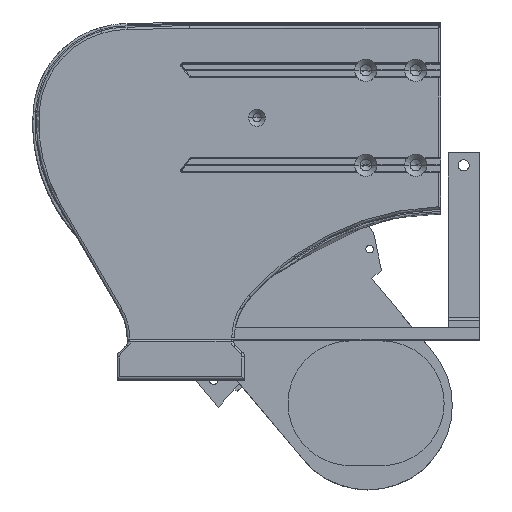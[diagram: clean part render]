
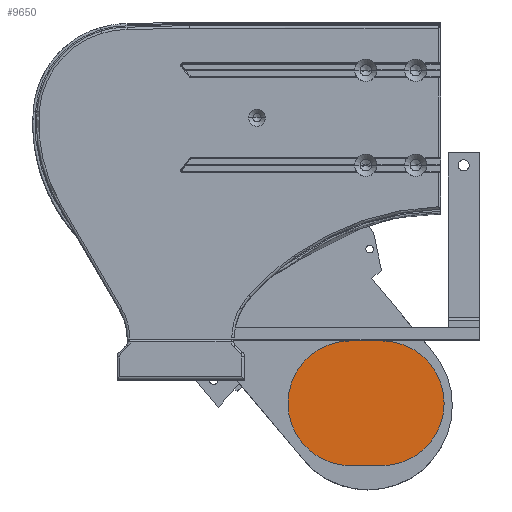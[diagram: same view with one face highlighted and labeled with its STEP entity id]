
A CAD part, top view. The second image highlights one B-rep face of the part: STEP entity #9650.
In plain terms, the highlighted planar face has unit normal (0, 0, 1).
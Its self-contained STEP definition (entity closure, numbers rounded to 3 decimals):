
#1432 = PLANE ( 'NONE',  #16871 ) ;
#3459 = ORIENTED_EDGE ( 'NONE', *, *, #28242, .T. ) ;
#5045 = ORIENTED_EDGE ( 'NONE', *, *, #16621, .T. ) ;
#5463 = CARTESIAN_POINT ( 'NONE',  ( 192.835, -229.814, -242. ) ) ;
#5581 = CARTESIAN_POINT ( 'NONE',  ( -50.176, -42.102, -242. ) ) ;
#5645 = VERTEX_POINT ( 'NONE', #5581 ) ;
#6717 = ORIENTED_EDGE ( 'NONE', *, *, #10476, .T. ) ;
#7045 = FACE_OUTER_BOUND ( 'NONE', #28588, .T. ) ;
#7589 = CARTESIAN_POINT ( 'NONE',  ( -50.176, -42.102, -242. ) ) ;
#8503 = DIRECTION ( 'NONE',  ( 0., 0., 1. ) ) ;
#8660 = CARTESIAN_POINT ( 'NONE',  ( 192.835, -229.814, -242. ) ) ;
#9650 = ADVANCED_FACE ( 'NONE', ( #7045 ), #1432, .T. ) ;
#10476 = EDGE_CURVE ( 'NONE', #5645, #23528, #28536, .T. ) ;
#10497 = ORIENTED_EDGE ( 'NONE', *, *, #11556, .T. ) ;
#10964 = CIRCLE ( 'NONE', #17904, 65.5 ) ;
#11556 = EDGE_CURVE ( 'NONE', #23528, #19918, #10964, .T. ) ;
#12102 = VECTOR ( 'NONE', #16353, 1000. ) ;
#12303 = DIRECTION ( 'NONE',  ( 1., 0., 0. ) ) ;
#12510 = CARTESIAN_POINT ( 'NONE',  ( 0., 0., -242. ) ) ;
#12774 = DIRECTION ( 'NONE',  ( 1., 0., 0. ) ) ;
#12885 = VECTOR ( 'NONE', #19409, 1000. ) ;
#13834 = VERTEX_POINT ( 'NONE', #25254 ) ;
#14452 = DIRECTION ( 'NONE',  ( 0., 0., 1. ) ) ;
#16353 = DIRECTION ( 'NONE',  ( -0.643, 0.766, 0. ) ) ;
#16621 = EDGE_CURVE ( 'NONE', #13834, #5645, #25679, .T. ) ;
#16673 = CIRCLE ( 'NONE', #28506, 65.5 ) ;
#16871 = AXIS2_PLACEMENT_3D ( 'NONE', #27013, #8503, #17660 ) ;
#17468 = VERTEX_POINT ( 'NONE', #25770 ) ;
#17660 = DIRECTION ( 'NONE',  ( 1., 0., 0. ) ) ;
#17904 = AXIS2_PLACEMENT_3D ( 'NONE', #8660, #25031, #29696 ) ;
#19409 = DIRECTION ( 'NONE',  ( 0.643, -0.766, 0. ) ) ;
#19918 = VERTEX_POINT ( 'NONE', #21195 ) ;
#21195 = CARTESIAN_POINT ( 'NONE',  ( 258.335, -229.814, -242. ) ) ;
#21364 = AXIS2_PLACEMENT_3D ( 'NONE', #12510, #14452, #12303 ) ;
#23528 = VERTEX_POINT ( 'NONE', #27911 ) ;
#24392 = DIRECTION ( 'NONE',  ( 0., 0., 1. ) ) ;
#25031 = DIRECTION ( 'NONE',  ( 0., 0., 1. ) ) ;
#25254 = CARTESIAN_POINT ( 'NONE',  ( 50.176, 42.102, -242. ) ) ;
#25583 = EDGE_CURVE ( 'NONE', #17468, #13834, #28885, .T. ) ;
#25679 = CIRCLE ( 'NONE', #21364, 65.5 ) ;
#25770 = CARTESIAN_POINT ( 'NONE',  ( 243.011, -187.712, -242. ) ) ;
#27013 = CARTESIAN_POINT ( 'NONE',  ( 0., 0., -242. ) ) ;
#27911 = CARTESIAN_POINT ( 'NONE',  ( 142.659, -271.917, -242. ) ) ;
#28242 = EDGE_CURVE ( 'NONE', #19918, #17468, #16673, .T. ) ;
#28506 = AXIS2_PLACEMENT_3D ( 'NONE', #5463, #24392, #12774 ) ;
#28536 = LINE ( 'NONE', #7589, #12885 ) ;
#28588 = EDGE_LOOP ( 'NONE', ( #5045, #6717, #10497, #3459, #29670 ) ) ;
#28885 = LINE ( 'NONE', #30280, #12102 ) ;
#29670 = ORIENTED_EDGE ( 'NONE', *, *, #25583, .T. ) ;
#29696 = DIRECTION ( 'NONE',  ( 1., 0., 0. ) ) ;
#30280 = CARTESIAN_POINT ( 'NONE',  ( 243.011, -187.712, -242. ) ) ;
